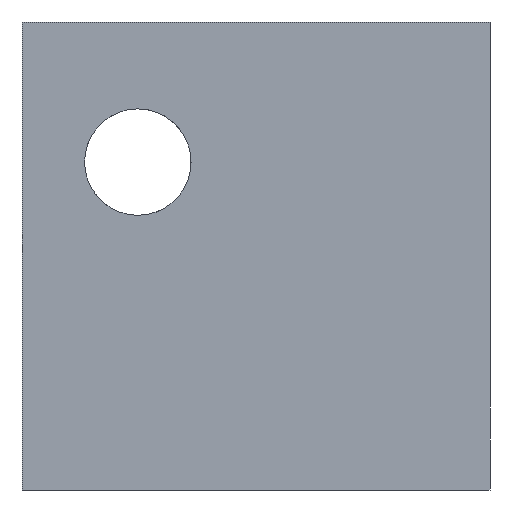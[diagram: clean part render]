
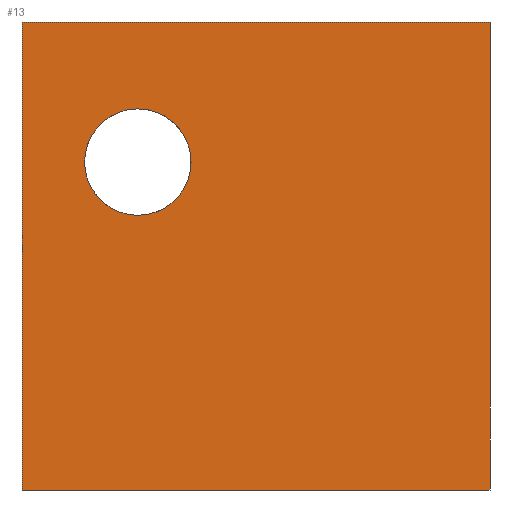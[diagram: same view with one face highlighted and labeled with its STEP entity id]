
A CAD part, left-side view. The second image highlights one B-rep face of the part: STEP entity #13.
In plain terms, the highlighted planar face has unit normal (-1, 0, 0).
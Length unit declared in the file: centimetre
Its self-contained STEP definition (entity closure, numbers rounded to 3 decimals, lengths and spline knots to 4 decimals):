
#13 = ADVANCED_FACE ( 'NONE', ( #275, #122 ), #479, .F. ) ;
#21 = CARTESIAN_POINT ( 'NONE',  ( 0., 1000., 1000. ) ) ;
#23 = CARTESIAN_POINT ( 'NONE',  ( 0., 1000., 0. ) ) ;
#24 = EDGE_LOOP ( 'NONE', ( #607, #476 ) ) ;
#29 = CARTESIAN_POINT ( 'NONE',  ( 0., 1000., 0. ) ) ;
#36 = CARTESIAN_POINT ( 'NONE',  ( 0., 752.529, 700.7031 ) ) ;
#67 = DIRECTION ( 'NONE',  ( 0., 0., -1. ) ) ;
#68 = VERTEX_POINT ( 'NONE', #278 ) ;
#72 = DIRECTION ( 'NONE',  ( 0., 0., -1. ) ) ;
#82 = DIRECTION ( 'NONE',  ( 1., 0., 0. ) ) ;
#86 = VECTOR ( 'NONE', #137, 100. ) ;
#92 = CARTESIAN_POINT ( 'NONE',  ( 0., 1000., 1000. ) ) ;
#97 = AXIS2_PLACEMENT_3D ( 'NONE', #475, #82, #72 ) ;
#116 = EDGE_CURVE ( 'NONE', #216, #68, #548, .T. ) ;
#120 = VERTEX_POINT ( 'NONE', #569 ) ;
#122 = FACE_OUTER_BOUND ( 'NONE', #414, .T. ) ;
#137 = DIRECTION ( 'NONE',  ( 0., -1., 0. ) ) ;
#151 = ORIENTED_EDGE ( 'NONE', *, *, #378, .T. ) ;
#157 = CARTESIAN_POINT ( 'NONE',  ( 0., 1000., 1000. ) ) ;
#164 = CIRCLE ( 'NONE', #529, 113.6901 ) ;
#207 = AXIS2_PLACEMENT_3D ( 'NONE', #36, #227, #277 ) ;
#216 = VERTEX_POINT ( 'NONE', #157 ) ;
#226 = CIRCLE ( 'NONE', #207, 113.6901 ) ;
#227 = DIRECTION ( 'NONE',  ( -1., 0., 0. ) ) ;
#254 = VECTOR ( 'NONE', #67, 100. ) ;
#265 = VERTEX_POINT ( 'NONE', #413 ) ;
#269 = EDGE_CURVE ( 'NONE', #216, #368, #365, .T. ) ;
#272 = VECTOR ( 'NONE', #293, 100. ) ;
#275 = FACE_BOUND ( 'NONE', #24, .T. ) ;
#277 = DIRECTION ( 'NONE',  ( 0., 0., 1. ) ) ;
#278 = CARTESIAN_POINT ( 'NONE',  ( 0., 0., 1000. ) ) ;
#292 = DIRECTION ( 'NONE',  ( -1., 0., 0. ) ) ;
#293 = DIRECTION ( 'NONE',  ( 0., -1., 0. ) ) ;
#294 = ORIENTED_EDGE ( 'NONE', *, *, #116, .F. ) ;
#301 = VERTEX_POINT ( 'NONE', #618 ) ;
#328 = LINE ( 'NONE', #474, #589 ) ;
#333 = DIRECTION ( 'NONE',  ( 0., 0., -1. ) ) ;
#356 = ORIENTED_EDGE ( 'NONE', *, *, #425, .F. ) ;
#365 = LINE ( 'NONE', #21, #254 ) ;
#368 = VERTEX_POINT ( 'NONE', #23 ) ;
#378 = EDGE_CURVE ( 'NONE', #368, #120, #523, .T. ) ;
#413 = CARTESIAN_POINT ( 'NONE',  ( 0., 752.529, 587.013 ) ) ;
#414 = EDGE_LOOP ( 'NONE', ( #151, #356, #294, #511 ) ) ;
#423 = EDGE_CURVE ( 'NONE', #265, #301, #226, .T. ) ;
#425 = EDGE_CURVE ( 'NONE', #68, #120, #328, .T. ) ;
#474 = CARTESIAN_POINT ( 'NONE',  ( 0., 0., 1000. ) ) ;
#475 = CARTESIAN_POINT ( 'NONE',  ( 0., 1000., 1000. ) ) ;
#476 = ORIENTED_EDGE ( 'NONE', *, *, #423, .F. ) ;
#479 = PLANE ( 'NONE',  #97 ) ;
#481 = EDGE_CURVE ( 'NONE', #301, #265, #164, .T. ) ;
#511 = ORIENTED_EDGE ( 'NONE', *, *, #269, .T. ) ;
#523 = LINE ( 'NONE', #29, #86 ) ;
#529 = AXIS2_PLACEMENT_3D ( 'NONE', #596, #292, #547 ) ;
#547 = DIRECTION ( 'NONE',  ( 0., 0., 1. ) ) ;
#548 = LINE ( 'NONE', #92, #272 ) ;
#569 = CARTESIAN_POINT ( 'NONE',  ( 0., 0., 0. ) ) ;
#589 = VECTOR ( 'NONE', #333, 100. ) ;
#596 = CARTESIAN_POINT ( 'NONE',  ( 0., 752.529, 700.7031 ) ) ;
#607 = ORIENTED_EDGE ( 'NONE', *, *, #481, .F. ) ;
#618 = CARTESIAN_POINT ( 'NONE',  ( 0., 752.529, 814.3931 ) ) ;
